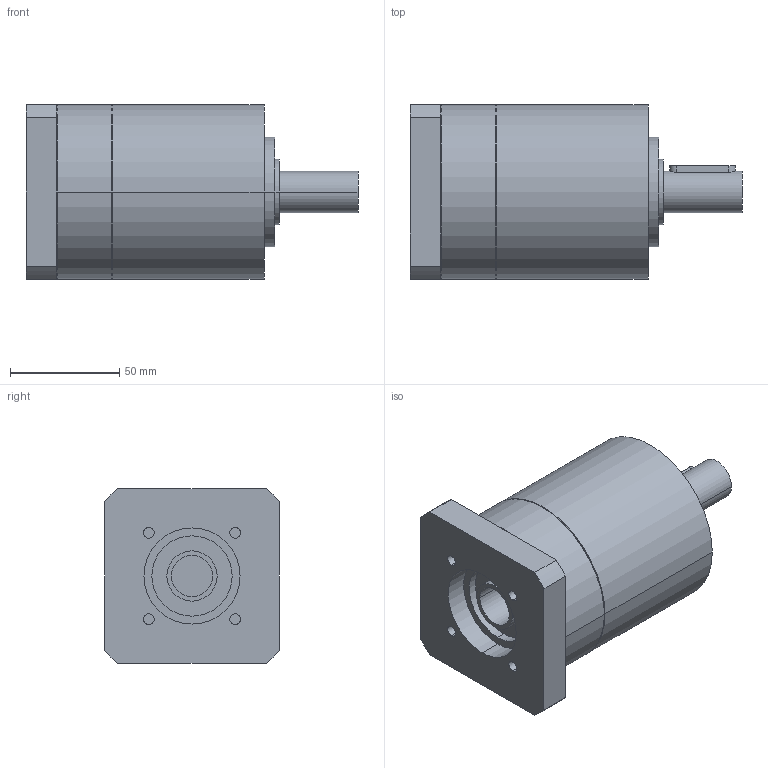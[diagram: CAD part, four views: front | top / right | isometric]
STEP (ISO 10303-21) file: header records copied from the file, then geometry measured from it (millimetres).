
FILE_DESCRIPTION(('CoCreate Modeling STEP Export'),'2;1');
FILE_NAME('GPR100_ig-3-4-5-6_19_B14_19_P31.stp','2014-08-26T10:08:57',(''),(''),'CoCreate Modeling STEP processor for AP214 (Solid Model)','CoCreate Modeling 16.00C 25-Feb-2009 (C) Parametric Technology GmbH','');
FILE_SCHEMA(('AUTOMOTIVE_DESIGN { 1 0 10303 214 1 1 1 1 }'));
Length unit declared in the file: millimetre
Products named in the file (2): GPR100_ig-3-4-5-6_19_B14_19_P31
Assembly tree (1 placements, depth 2):
  GPR100_ig-3-4-5-6_19_B14_19_P31
    GPR100_ig-3-4-5-6_19_B14_19_P31
Bounding box: 152 x 80 x 80 mm (x, y, z)
Volume: 557692.7 mm3; surface area: 51209.5 mm2
Topology: 1 solids, 1 shells, 74 faces, 188 edges, 132 vertices
Faces by surface type: cylinder 42, plane 26, cone 6
Entity records: 1943 total; most frequent: ORIENTED_EDGE 372, CARTESIAN_POINT 360, DIRECTION 262, EDGE_CURVE 186, VERTEX_POINT 132, AXIS2_PLACEMENT_3D 98, EDGE_LOOP 92, FACE_OUTER_BOUND 74
